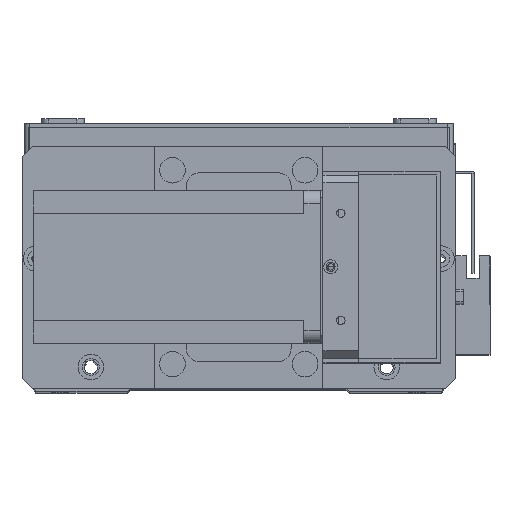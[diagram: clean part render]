
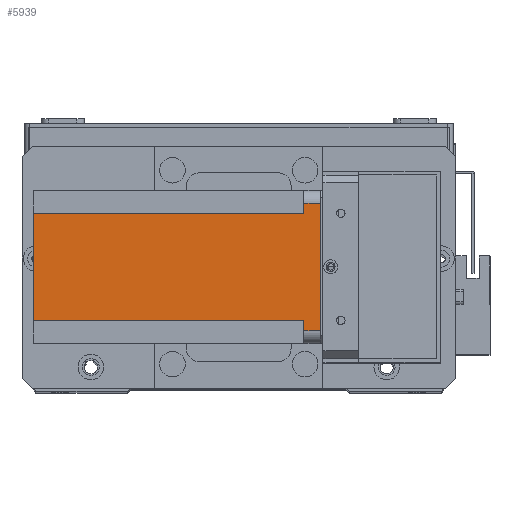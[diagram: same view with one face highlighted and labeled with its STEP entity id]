
A CAD part, top view. The second image highlights one B-rep face of the part: STEP entity #5939.
In plain terms, the highlighted planar face has unit normal (0, 0, 1) as drawn and (-1, 0, 0) by its records, which use the part's own axes.
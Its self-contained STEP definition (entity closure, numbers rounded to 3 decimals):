
#217 = CARTESIAN_POINT ( 'NONE',  ( 0., 9., -112.5 ) ) ;
#523 = DIRECTION ( 'NONE',  ( 0., -1., 0. ) ) ;
#614 = DIRECTION ( 'NONE',  ( -1., 0., 0. ) ) ;
#762 = CARTESIAN_POINT ( 'NONE',  ( 0., 51., -112.5 ) ) ;
#1007 = ORIENTED_EDGE ( 'NONE', *, *, #27938, .F. ) ;
#2307 = CARTESIAN_POINT ( 'NONE',  ( 0., 55., -112.5 ) ) ;
#2329 = VECTOR ( 'NONE', #22723, 1000. ) ;
#2415 = CARTESIAN_POINT ( 'NONE',  ( 0., 9., -6.5 ) ) ;
#2428 = CARTESIAN_POINT ( 'NONE',  ( 0., 0., -112.5 ) ) ;
#2641 = PLANE ( 'NONE',  #16840 ) ;
#3368 = DIRECTION ( 'NONE',  ( 0., -1., 0. ) ) ;
#3720 = LINE ( 'NONE', #18801, #27860 ) ;
#5218 = EDGE_CURVE ( 'NONE', #9039, #23729, #28004, .T. ) ;
#5309 = DIRECTION ( 'NONE',  ( 0., 0., -1. ) ) ;
#5939 = ADVANCED_FACE ( 'NONE', ( #22008 ), #2641, .T. ) ;
#8494 = LINE ( 'NONE', #22785, #2329 ) ;
#8779 = CARTESIAN_POINT ( 'NONE',  ( 0., 0., -112.5 ) ) ;
#9039 = VERTEX_POINT ( 'NONE', #29917 ) ;
#10707 = LINE ( 'NONE', #17706, #22694 ) ;
#11597 = ORIENTED_EDGE ( 'NONE', *, *, #16920, .T. ) ;
#11761 = EDGE_LOOP ( 'NONE', ( #27659, #11597, #26340, #13928, #15789, #17191, #22489, #1007 ) ) ;
#12627 = LINE ( 'NONE', #25472, #24431 ) ;
#12969 = CARTESIAN_POINT ( 'NONE',  ( 0., 5., -6.5 ) ) ;
#13785 = LINE ( 'NONE', #24530, #19317 ) ;
#13928 = ORIENTED_EDGE ( 'NONE', *, *, #5218, .T. ) ;
#14092 = VECTOR ( 'NONE', #23224, 1000. ) ;
#15260 = CARTESIAN_POINT ( 'NONE',  ( 0., 55., -6.5 ) ) ;
#15327 = CARTESIAN_POINT ( 'NONE',  ( 0., 5., 0. ) ) ;
#15789 = ORIENTED_EDGE ( 'NONE', *, *, #26786, .F. ) ;
#16524 = DIRECTION ( 'NONE',  ( 0., 0., 1. ) ) ;
#16840 = AXIS2_PLACEMENT_3D ( 'NONE', #2428, #614, #523 ) ;
#16920 = EDGE_CURVE ( 'NONE', #21258, #21909, #8494, .T. ) ;
#17191 = ORIENTED_EDGE ( 'NONE', *, *, #28665, .F. ) ;
#17706 = CARTESIAN_POINT ( 'NONE',  ( 0., 9., -112.5 ) ) ;
#18221 = LINE ( 'NONE', #26883, #29652 ) ;
#18546 = VERTEX_POINT ( 'NONE', #217 ) ;
#18801 = CARTESIAN_POINT ( 'NONE',  ( 0., 51., -112.5 ) ) ;
#19271 = VERTEX_POINT ( 'NONE', #28818 ) ;
#19317 = VECTOR ( 'NONE', #3368, 1000. ) ;
#20056 = DIRECTION ( 'NONE',  ( 0., 0., -1. ) ) ;
#21204 = LINE ( 'NONE', #8779, #14092 ) ;
#21258 = VERTEX_POINT ( 'NONE', #12969 ) ;
#21909 = VERTEX_POINT ( 'NONE', #15327 ) ;
#22008 = FACE_OUTER_BOUND ( 'NONE', #11761, .T. ) ;
#22489 = ORIENTED_EDGE ( 'NONE', *, *, #28020, .T. ) ;
#22694 = VECTOR ( 'NONE', #20056, 1000. ) ;
#22723 = DIRECTION ( 'NONE',  ( 0., 0., 1. ) ) ;
#22785 = CARTESIAN_POINT ( 'NONE',  ( 0., 5., -112.5 ) ) ;
#23224 = DIRECTION ( 'NONE',  ( 0., -1., 0. ) ) ;
#23729 = VERTEX_POINT ( 'NONE', #15260 ) ;
#24431 = VECTOR ( 'NONE', #27668, 1000. ) ;
#24530 = CARTESIAN_POINT ( 'NONE',  ( 0., 0., 0. ) ) ;
#25472 = CARTESIAN_POINT ( 'NONE',  ( 0., 0., -6.5 ) ) ;
#26340 = ORIENTED_EDGE ( 'NONE', *, *, #27389, .F. ) ;
#26786 = EDGE_CURVE ( 'NONE', #19271, #23729, #18221, .T. ) ;
#26883 = CARTESIAN_POINT ( 'NONE',  ( 0., 60., -6.5 ) ) ;
#27389 = EDGE_CURVE ( 'NONE', #9039, #21909, #13785, .T. ) ;
#27644 = EDGE_CURVE ( 'NONE', #21258, #29308, #12627, .T. ) ;
#27659 = ORIENTED_EDGE ( 'NONE', *, *, #27644, .F. ) ;
#27668 = DIRECTION ( 'NONE',  ( 0., 1., 0. ) ) ;
#27860 = VECTOR ( 'NONE', #16524, 1000. ) ;
#27877 = VECTOR ( 'NONE', #5309, 1000. ) ;
#27938 = EDGE_CURVE ( 'NONE', #29308, #18546, #10707, .T. ) ;
#28004 = LINE ( 'NONE', #2307, #27877 ) ;
#28020 = EDGE_CURVE ( 'NONE', #30049, #18546, #21204, .T. ) ;
#28665 = EDGE_CURVE ( 'NONE', #30049, #19271, #3720, .T. ) ;
#28818 = CARTESIAN_POINT ( 'NONE',  ( 0., 51., -6.5 ) ) ;
#29096 = DIRECTION ( 'NONE',  ( 0., 1., 0. ) ) ;
#29308 = VERTEX_POINT ( 'NONE', #2415 ) ;
#29652 = VECTOR ( 'NONE', #29096, 1000. ) ;
#29917 = CARTESIAN_POINT ( 'NONE',  ( 0., 55., 0. ) ) ;
#30049 = VERTEX_POINT ( 'NONE', #762 ) ;
